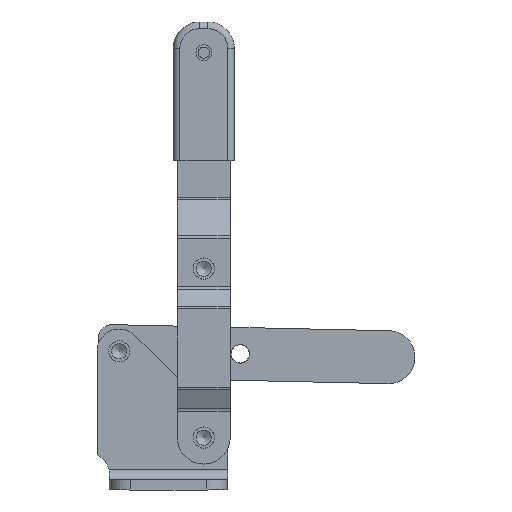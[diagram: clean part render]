
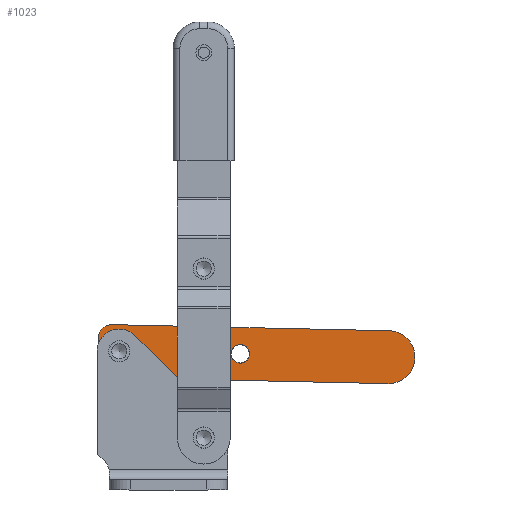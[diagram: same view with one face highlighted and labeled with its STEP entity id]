
A CAD part, front view. The second image highlights one B-rep face of the part: STEP entity #1023.
In plain terms, the highlighted planar face has unit normal (0, -1, 0).
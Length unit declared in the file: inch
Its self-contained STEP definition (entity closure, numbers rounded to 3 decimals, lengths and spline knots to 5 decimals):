
#666=FACE_BOUND('',#3221,.T.);
#667=FACE_BOUND('',#3222,.T.);
#668=FACE_BOUND('',#3223,.T.);
#1023=ADVANCED_FACE('',(#666,#667,#668,#2404),#1799,.T.);
#1799=PLANE('',#15108);
#2404=FACE_OUTER_BOUND('',#3224,.T.);
#3221=EDGE_LOOP('',(#4978));
#3222=EDGE_LOOP('',(#4979));
#3223=EDGE_LOOP('',(#4980));
#3224=EDGE_LOOP('',(#4981,#4982,#4983,#4984,#4985,#4986));
#4237=CIRCLE('',#15102,0.1265);
#4238=CIRCLE('',#15103,0.1265);
#4239=CIRCLE('',#15104,0.109);
#4240=CIRCLE('',#15105,0.156);
#4241=CIRCLE('',#15106,0.313);
#4242=CIRCLE('',#15107,0.156);
#4978=ORIENTED_EDGE('',*,*,#10096,.F.);
#4979=ORIENTED_EDGE('',*,*,#10097,.F.);
#4980=ORIENTED_EDGE('',*,*,#10098,.F.);
#4981=ORIENTED_EDGE('',*,*,#10088,.F.);
#4982=ORIENTED_EDGE('',*,*,#10099,.T.);
#4983=ORIENTED_EDGE('',*,*,#10078,.T.);
#4984=ORIENTED_EDGE('',*,*,#10100,.T.);
#4985=ORIENTED_EDGE('',*,*,#10084,.F.);
#4986=ORIENTED_EDGE('',*,*,#10101,.T.);
#8673=VERTEX_POINT('',#20693);
#8674=VERTEX_POINT('',#20694);
#8679=VERTEX_POINT('',#20705);
#8680=VERTEX_POINT('',#20707);
#8683=VERTEX_POINT('',#20714);
#8684=VERTEX_POINT('',#20716);
#8688=VERTEX_POINT('',#20730);
#8689=VERTEX_POINT('',#20732);
#8690=VERTEX_POINT('',#20734);
#10078=EDGE_CURVE('',#8673,#8674,#11960,.T.);
#10084=EDGE_CURVE('',#8679,#8680,#11966,.T.);
#10088=EDGE_CURVE('',#8683,#8684,#11970,.T.);
#10096=EDGE_CURVE('',#8688,#8688,#4237,.T.);
#10097=EDGE_CURVE('',#8689,#8689,#4238,.T.);
#10098=EDGE_CURVE('',#8690,#8690,#4239,.T.);
#10099=EDGE_CURVE('',#8683,#8673,#4240,.T.);
#10100=EDGE_CURVE('',#8674,#8680,#4241,.T.);
#10101=EDGE_CURVE('',#8679,#8684,#4242,.T.);
#11960=LINE('',#20692,#13480);
#11966=LINE('',#20706,#13486);
#11970=LINE('',#20715,#13490);
#13480=VECTOR('',#16653,1.);
#13486=VECTOR('',#16661,1.);
#13490=VECTOR('',#16667,1.);
#15102=AXIS2_PLACEMENT_3D('',#20729,#16685,#16686);
#15103=AXIS2_PLACEMENT_3D('',#20731,#16687,#16688);
#15104=AXIS2_PLACEMENT_3D('',#20733,#16689,#16690);
#15105=AXIS2_PLACEMENT_3D('',#20735,#16691,#16692);
#15106=AXIS2_PLACEMENT_3D('',#20736,#16693,#16694);
#15107=AXIS2_PLACEMENT_3D('',#20737,#16695,#16696);
#15108=AXIS2_PLACEMENT_3D('',#20738,#16697,#16698);
#16653=DIRECTION('',(1.,0.,-0.022));
#16661=DIRECTION('',(1.,0.,-0.022));
#16667=DIRECTION('',(0.022,0.,1.));
#16685=DIRECTION('',(0.,-1.,0.));
#16686=DIRECTION('',(0.,0.,-1.));
#16687=DIRECTION('',(0.,-1.,0.));
#16688=DIRECTION('',(0.,0.,-1.));
#16689=DIRECTION('',(0.,-1.,0.));
#16690=DIRECTION('',(0.,0.,-1.));
#16691=DIRECTION('',(0.,-1.,0.));
#16692=DIRECTION('',(0.,0.,-1.));
#16693=DIRECTION('',(0.,-1.,0.));
#16694=DIRECTION('',(0.,0.,-1.));
#16695=DIRECTION('',(0.,-1.,0.));
#16696=DIRECTION('',(0.,0.,-1.));
#16697=DIRECTION('',(0.,-1.,0.));
#16698=DIRECTION('',(0.,0.,-1.));
#20692=CARTESIAN_POINT('',(-1.25682,-0.125,0.71457));
#20693=CARTESIAN_POINT('',(-1.10086,-0.125,0.71114));
#20694=CARTESIAN_POINT('',(2.17934,-0.125,0.63898));
#20705=CARTESIAN_POINT('',(-1.08709,-0.125,1.33699));
#20706=CARTESIAN_POINT('',(-1.24306,-0.125,1.34042));
#20707=CARTESIAN_POINT('',(2.19311,-0.125,1.26483));
#20714=CARTESIAN_POINT('',(-1.25339,-0.125,0.87054));
#20715=CARTESIAN_POINT('',(-1.25682,-0.125,0.71457));
#20716=CARTESIAN_POINT('',(-1.24649,-0.125,1.18446));
#20729=CARTESIAN_POINT('',(-1.,-0.125,1.022));
#20730=CARTESIAN_POINT('',(-1.,-0.125,0.8955));
#20731=CARTESIAN_POINT('',(-0.00024,-0.125,1.00001));
#20732=CARTESIAN_POINT('',(-0.00024,-0.125,0.87351));
#20733=CARTESIAN_POINT('',(0.43165,-0.125,0.9905));
#20734=CARTESIAN_POINT('',(0.43165,-0.125,0.8815));
#20735=CARTESIAN_POINT('',(-1.09743,-0.125,0.86711));
#20736=CARTESIAN_POINT('',(2.18623,-0.125,0.9519));
#20737=CARTESIAN_POINT('',(-1.09052,-0.125,1.18103));
#20738=CARTESIAN_POINT('',(-1.25682,-0.125,0.71457));
